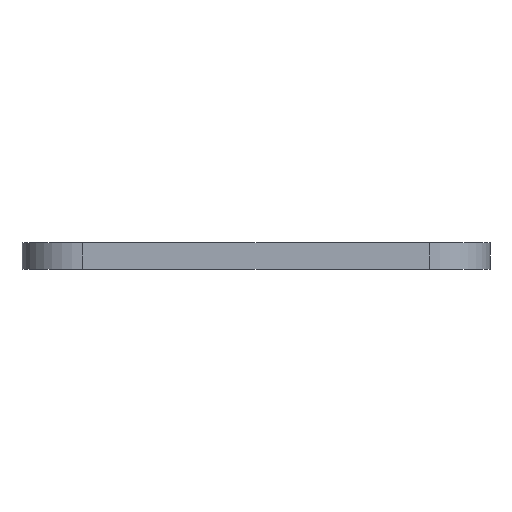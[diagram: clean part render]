
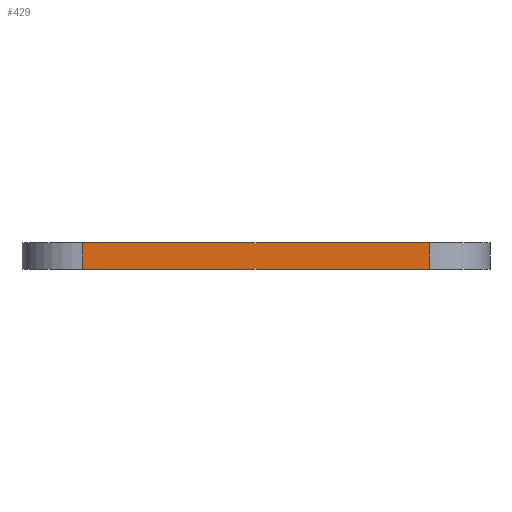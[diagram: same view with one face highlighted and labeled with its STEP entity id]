
A CAD part, left-side view. The second image highlights one B-rep face of the part: STEP entity #429.
In plain terms, the highlighted planar face has unit normal (-1, 0, 0).
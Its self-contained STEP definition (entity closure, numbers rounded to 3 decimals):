
#15 = VERTEX_POINT ( 'NONE', #219 ) ;
#42 = ORIENTED_EDGE ( 'NONE', *, *, #510, .F. ) ;
#102 = VERTEX_POINT ( 'NONE', #171 ) ;
#107 = LINE ( 'NONE', #572, #473 ) ;
#118 = VERTEX_POINT ( 'NONE', #554 ) ;
#120 = EDGE_CURVE ( 'NONE', #118, #15, #416, .T. ) ;
#121 = ORIENTED_EDGE ( 'NONE', *, *, #596, .F. ) ;
#171 = CARTESIAN_POINT ( 'NONE',  ( -13.9, 10.3, 1.6 ) ) ;
#192 = EDGE_CURVE ( 'NONE', #102, #118, #107, .T. ) ;
#206 = DIRECTION ( 'NONE',  ( 1., 0., 0. ) ) ;
#213 = ORIENTED_EDGE ( 'NONE', *, *, #192, .T. ) ;
#215 = CARTESIAN_POINT ( 'NONE',  ( -13.9, 10.3, 1.6 ) ) ;
#219 = CARTESIAN_POINT ( 'NONE',  ( -13.9, -10.3, 0. ) ) ;
#288 = DIRECTION ( 'NONE',  ( 0., 0., -1. ) ) ;
#300 = CARTESIAN_POINT ( 'NONE',  ( -13.9, 10.3, 1.6 ) ) ;
#324 = CARTESIAN_POINT ( 'NONE',  ( -13.9, -10.3, 1.6 ) ) ;
#340 = CARTESIAN_POINT ( 'NONE',  ( -13.9, 10.3, 0. ) ) ;
#358 = VERTEX_POINT ( 'NONE', #412 ) ;
#387 = VECTOR ( 'NONE', #288, 1000. ) ;
#412 = CARTESIAN_POINT ( 'NONE',  ( -13.9, -10.3, 1.6 ) ) ;
#416 = LINE ( 'NONE', #340, #418 ) ;
#418 = VECTOR ( 'NONE', #469, 1000. ) ;
#421 = EDGE_LOOP ( 'NONE', ( #465, #42, #121, #213 ) ) ;
#422 = LINE ( 'NONE', #324, #387 ) ;
#429 = ADVANCED_FACE ( 'NONE', ( #724 ), #471, .F. ) ;
#465 = ORIENTED_EDGE ( 'NONE', *, *, #120, .T. ) ;
#469 = DIRECTION ( 'NONE',  ( 0., -1., 0. ) ) ;
#471 = PLANE ( 'NONE',  #692 ) ;
#473 = VECTOR ( 'NONE', #506, 1000. ) ;
#504 = DIRECTION ( 'NONE',  ( 0., -1., 0. ) ) ;
#506 = DIRECTION ( 'NONE',  ( 0., 0., -1. ) ) ;
#510 = EDGE_CURVE ( 'NONE', #358, #15, #422, .T. ) ;
#554 = CARTESIAN_POINT ( 'NONE',  ( -13.9, 10.3, 0. ) ) ;
#572 = CARTESIAN_POINT ( 'NONE',  ( -13.9, 10.3, 1.6 ) ) ;
#596 = EDGE_CURVE ( 'NONE', #102, #358, #667, .T. ) ;
#644 = VECTOR ( 'NONE', #504, 1000. ) ;
#667 = LINE ( 'NONE', #300, #644 ) ;
#692 = AXIS2_PLACEMENT_3D ( 'NONE', #215, #206, #695 ) ;
#695 = DIRECTION ( 'NONE',  ( 0., 1., 0. ) ) ;
#724 = FACE_OUTER_BOUND ( 'NONE', #421, .T. ) ;
